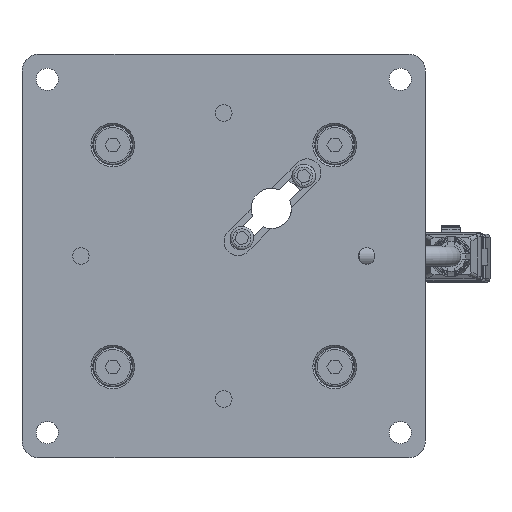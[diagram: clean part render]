
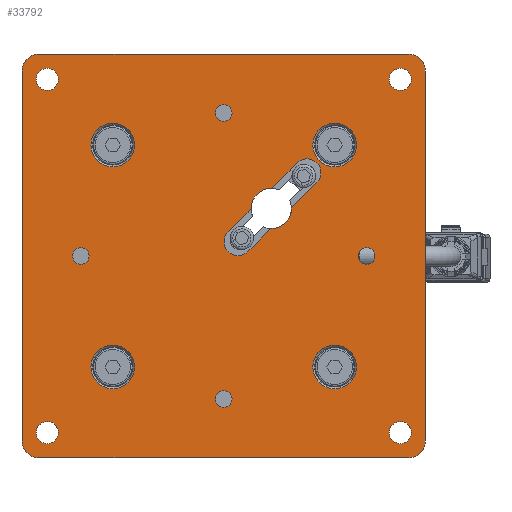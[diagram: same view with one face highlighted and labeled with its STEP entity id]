
A CAD part, top view. The second image highlights one B-rep face of the part: STEP entity #33792.
In plain terms, the highlighted planar face has unit normal (0, 0, 1).
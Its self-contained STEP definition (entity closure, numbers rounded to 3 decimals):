
#831=CIRCLE('',#35538,6.);
#857=CIRCLE('',#35568,2.459);
#858=CIRCLE('',#35569,2.459);
#859=CIRCLE('',#35570,2.459);
#860=CIRCLE('',#35571,2.459);
#861=CIRCLE('',#35572,6.5);
#862=CIRCLE('',#35573,6.5);
#863=CIRCLE('',#35574,6.5);
#864=CIRCLE('',#35575,6.5);
#865=CIRCLE('',#35576,3.3);
#866=CIRCLE('',#35577,3.3);
#867=CIRCLE('',#35578,3.3);
#868=CIRCLE('',#35579,3.3);
#869=CIRCLE('',#35580,5.);
#870=CIRCLE('',#35581,5.);
#871=CIRCLE('',#35582,5.);
#872=CIRCLE('',#35583,5.);
#873=CIRCLE('',#35584,6.);
#874=CIRCLE('',#35585,4.15);
#875=CIRCLE('',#35586,4.15);
#3788=ORIENTED_EDGE('',*,*,#10488,.F.);
#3789=ORIENTED_EDGE('',*,*,#10489,.F.);
#3790=ORIENTED_EDGE('',*,*,#10490,.F.);
#3791=ORIENTED_EDGE('',*,*,#10491,.F.);
#3792=ORIENTED_EDGE('',*,*,#10492,.T.);
#3793=ORIENTED_EDGE('',*,*,#10493,.T.);
#3794=ORIENTED_EDGE('',*,*,#10494,.T.);
#3795=ORIENTED_EDGE('',*,*,#10495,.T.);
#3796=ORIENTED_EDGE('',*,*,#10496,.F.);
#3797=ORIENTED_EDGE('',*,*,#10497,.F.);
#3798=ORIENTED_EDGE('',*,*,#10498,.F.);
#3799=ORIENTED_EDGE('',*,*,#10499,.F.);
#3800=ORIENTED_EDGE('',*,*,#10500,.T.);
#3801=ORIENTED_EDGE('',*,*,#10501,.T.);
#3802=ORIENTED_EDGE('',*,*,#10502,.T.);
#3803=ORIENTED_EDGE('',*,*,#10503,.T.);
#3804=ORIENTED_EDGE('',*,*,#10504,.T.);
#3805=ORIENTED_EDGE('',*,*,#10505,.T.);
#3806=ORIENTED_EDGE('',*,*,#10506,.T.);
#3807=ORIENTED_EDGE('',*,*,#10507,.T.);
#3808=ORIENTED_EDGE('',*,*,#10508,.F.);
#3809=ORIENTED_EDGE('',*,*,#10509,.F.);
#3810=ORIENTED_EDGE('',*,*,#10510,.F.);
#3811=ORIENTED_EDGE('',*,*,#10511,.T.);
#3812=ORIENTED_EDGE('',*,*,#10512,.T.);
#3813=ORIENTED_EDGE('',*,*,#10445,.F.);
#3814=ORIENTED_EDGE('',*,*,#10513,.T.);
#3815=ORIENTED_EDGE('',*,*,#10514,.T.);
#10445=EDGE_CURVE('',#13945,#13946,#831,.T.);
#10488=EDGE_CURVE('',#13985,#13985,#857,.T.);
#10489=EDGE_CURVE('',#13986,#13986,#858,.T.);
#10490=EDGE_CURVE('',#13987,#13987,#859,.T.);
#10491=EDGE_CURVE('',#13988,#13988,#860,.T.);
#10492=EDGE_CURVE('',#13989,#13989,#861,.T.);
#10493=EDGE_CURVE('',#13990,#13990,#862,.T.);
#10494=EDGE_CURVE('',#13991,#13991,#863,.T.);
#10495=EDGE_CURVE('',#13992,#13992,#864,.T.);
#10496=EDGE_CURVE('',#13993,#13993,#865,.T.);
#10497=EDGE_CURVE('',#13994,#13994,#866,.T.);
#10498=EDGE_CURVE('',#13995,#13995,#867,.T.);
#10499=EDGE_CURVE('',#13996,#13996,#868,.T.);
#10500=EDGE_CURVE('',#13997,#13998,#869,.T.);
#10501=EDGE_CURVE('',#13998,#13999,#16528,.T.);
#10502=EDGE_CURVE('',#13999,#14000,#870,.T.);
#10503=EDGE_CURVE('',#14000,#14001,#16529,.T.);
#10504=EDGE_CURVE('',#14001,#14002,#871,.T.);
#10505=EDGE_CURVE('',#14002,#14003,#16530,.T.);
#10506=EDGE_CURVE('',#14003,#14004,#872,.T.);
#10507=EDGE_CURVE('',#14004,#13997,#16531,.T.);
#10508=EDGE_CURVE('',#14005,#14006,#16532,.T.);
#10509=EDGE_CURVE('',#14007,#14005,#873,.T.);
#10510=EDGE_CURVE('',#14008,#14007,#16533,.T.);
#10511=EDGE_CURVE('',#14008,#14009,#874,.T.);
#10512=EDGE_CURVE('',#14009,#13946,#16534,.T.);
#10513=EDGE_CURVE('',#13945,#14010,#16535,.T.);
#10514=EDGE_CURVE('',#14010,#14006,#875,.T.);
#13945=VERTEX_POINT('',#46737);
#13946=VERTEX_POINT('',#46739);
#13985=VERTEX_POINT('',#46825);
#13986=VERTEX_POINT('',#46827);
#13987=VERTEX_POINT('',#46829);
#13988=VERTEX_POINT('',#46831);
#13989=VERTEX_POINT('',#46833);
#13990=VERTEX_POINT('',#46835);
#13991=VERTEX_POINT('',#46837);
#13992=VERTEX_POINT('',#46839);
#13993=VERTEX_POINT('',#46841);
#13994=VERTEX_POINT('',#46843);
#13995=VERTEX_POINT('',#46845);
#13996=VERTEX_POINT('',#46847);
#13997=VERTEX_POINT('',#46849);
#13998=VERTEX_POINT('',#46850);
#13999=VERTEX_POINT('',#46852);
#14000=VERTEX_POINT('',#46854);
#14001=VERTEX_POINT('',#46856);
#14002=VERTEX_POINT('',#46858);
#14003=VERTEX_POINT('',#46860);
#14004=VERTEX_POINT('',#46862);
#14005=VERTEX_POINT('',#46865);
#14006=VERTEX_POINT('',#46866);
#14007=VERTEX_POINT('',#46868);
#14008=VERTEX_POINT('',#46870);
#14009=VERTEX_POINT('',#46872);
#14010=VERTEX_POINT('',#46875);
#16528=LINE('',#46851,#18917);
#16529=LINE('',#46855,#18918);
#16530=LINE('',#46859,#18919);
#16531=LINE('',#46863,#18920);
#16532=LINE('',#46864,#18921);
#16533=LINE('',#46869,#18922);
#16534=LINE('',#46873,#18923);
#16535=LINE('',#46874,#18924);
#18917=VECTOR('',#39322,1000.);
#18918=VECTOR('',#39325,1000.);
#18919=VECTOR('',#39328,1000.);
#18920=VECTOR('',#39331,1000.);
#18921=VECTOR('',#39332,1000.);
#18922=VECTOR('',#39335,1000.);
#18923=VECTOR('',#39338,1000.);
#18924=VECTOR('',#39339,1000.);
#21073=EDGE_LOOP('',(#3788));
#21074=EDGE_LOOP('',(#3789));
#21075=EDGE_LOOP('',(#3790));
#21076=EDGE_LOOP('',(#3791));
#21077=EDGE_LOOP('',(#3792));
#21078=EDGE_LOOP('',(#3793));
#21079=EDGE_LOOP('',(#3794));
#21080=EDGE_LOOP('',(#3795));
#21081=EDGE_LOOP('',(#3796));
#21082=EDGE_LOOP('',(#3797));
#21083=EDGE_LOOP('',(#3798));
#21084=EDGE_LOOP('',(#3799));
#21085=EDGE_LOOP('',(#3800,#3801,#3802,#3803,#3804,#3805,#3806,#3807));
#21086=EDGE_LOOP('',(#3808,#3809,#3810,#3811,#3812,#3813,#3814,#3815));
#22826=FACE_BOUND('',#21073,.T.);
#22827=FACE_BOUND('',#21074,.T.);
#22828=FACE_BOUND('',#21075,.T.);
#22829=FACE_BOUND('',#21076,.T.);
#22830=FACE_BOUND('',#21077,.T.);
#22831=FACE_BOUND('',#21078,.T.);
#22832=FACE_BOUND('',#21079,.T.);
#22833=FACE_BOUND('',#21080,.T.);
#22834=FACE_BOUND('',#21081,.T.);
#22835=FACE_BOUND('',#21082,.T.);
#22836=FACE_BOUND('',#21083,.T.);
#22837=FACE_BOUND('',#21084,.T.);
#22838=FACE_BOUND('',#21085,.T.);
#22839=FACE_BOUND('',#21086,.T.);
#24381=PLANE('',#35567);
#33792=ADVANCED_FACE('',(#22826,#22827,#22828,#22829,#22830,#22831,#22832,
#22833,#22834,#22835,#22836,#22837,#22838,#22839),#24381,.T.);
#35538=AXIS2_PLACEMENT_3D('',#46738,#39219,#39220);
#35567=AXIS2_PLACEMENT_3D('',#46823,#39294,#39295);
#35568=AXIS2_PLACEMENT_3D('',#46824,#39296,#39297);
#35569=AXIS2_PLACEMENT_3D('',#46826,#39298,#39299);
#35570=AXIS2_PLACEMENT_3D('',#46828,#39300,#39301);
#35571=AXIS2_PLACEMENT_3D('',#46830,#39302,#39303);
#35572=AXIS2_PLACEMENT_3D('',#46832,#39304,#39305);
#35573=AXIS2_PLACEMENT_3D('',#46834,#39306,#39307);
#35574=AXIS2_PLACEMENT_3D('',#46836,#39308,#39309);
#35575=AXIS2_PLACEMENT_3D('',#46838,#39310,#39311);
#35576=AXIS2_PLACEMENT_3D('',#46840,#39312,#39313);
#35577=AXIS2_PLACEMENT_3D('',#46842,#39314,#39315);
#35578=AXIS2_PLACEMENT_3D('',#46844,#39316,#39317);
#35579=AXIS2_PLACEMENT_3D('',#46846,#39318,#39319);
#35580=AXIS2_PLACEMENT_3D('',#46848,#39320,#39321);
#35581=AXIS2_PLACEMENT_3D('',#46853,#39323,#39324);
#35582=AXIS2_PLACEMENT_3D('',#46857,#39326,#39327);
#35583=AXIS2_PLACEMENT_3D('',#46861,#39329,#39330);
#35584=AXIS2_PLACEMENT_3D('',#46867,#39333,#39334);
#35585=AXIS2_PLACEMENT_3D('',#46871,#39336,#39337);
#35586=AXIS2_PLACEMENT_3D('',#46876,#39340,#39341);
#39219=DIRECTION('',(0.,0.,1.));
#39220=DIRECTION('',(1.,0.,0.));
#39294=DIRECTION('',(0.,0.,1.));
#39295=DIRECTION('',(1.,0.,0.));
#39296=DIRECTION('',(0.,0.,1.));
#39297=DIRECTION('',(0.,1.,0.));
#39298=DIRECTION('',(0.,0.,1.));
#39299=DIRECTION('',(0.,1.,0.));
#39300=DIRECTION('',(0.,0.,1.));
#39301=DIRECTION('',(0.,1.,0.));
#39302=DIRECTION('',(0.,0.,1.));
#39303=DIRECTION('',(0.,1.,0.));
#39304=DIRECTION('',(0.,0.,-1.));
#39305=DIRECTION('',(1.,0.,0.));
#39306=DIRECTION('',(0.,0.,-1.));
#39307=DIRECTION('',(1.,0.,0.));
#39308=DIRECTION('',(0.,0.,-1.));
#39309=DIRECTION('',(1.,0.,0.));
#39310=DIRECTION('',(0.,0.,-1.));
#39311=DIRECTION('',(1.,0.,0.));
#39312=DIRECTION('',(0.,0.,1.));
#39313=DIRECTION('',(1.,0.,0.));
#39314=DIRECTION('',(0.,0.,1.));
#39315=DIRECTION('',(1.,0.,0.));
#39316=DIRECTION('',(0.,0.,1.));
#39317=DIRECTION('',(1.,0.,0.));
#39318=DIRECTION('',(0.,0.,1.));
#39319=DIRECTION('',(1.,0.,0.));
#39320=DIRECTION('',(0.,0.,1.));
#39321=DIRECTION('',(1.,0.,0.));
#39322=DIRECTION('',(1.,0.,0.));
#39323=DIRECTION('',(0.,0.,1.));
#39324=DIRECTION('',(-1.,0.,0.));
#39325=DIRECTION('',(0.,1.,0.));
#39326=DIRECTION('',(0.,0.,1.));
#39327=DIRECTION('',(1.,0.,0.));
#39328=DIRECTION('',(-1.,0.,0.));
#39329=DIRECTION('',(0.,0.,1.));
#39330=DIRECTION('',(1.,0.,0.));
#39331=DIRECTION('',(0.,-1.,0.));
#39332=DIRECTION('',(0.707,0.707,0.));
#39333=DIRECTION('',(0.,0.,1.));
#39334=DIRECTION('',(-1.,0.,0.));
#39335=DIRECTION('',(0.707,0.707,0.));
#39336=DIRECTION('',(0.,0.,-1.));
#39337=DIRECTION('',(0.707,-0.707,0.));
#39338=DIRECTION('',(0.707,0.707,0.));
#39339=DIRECTION('',(0.707,0.707,0.));
#39340=DIRECTION('',(0.,0.,-1.));
#39341=DIRECTION('',(-0.707,0.707,0.));
#46737=CARTESIAN_POINT('',(14.272,20.141,8.));
#46738=CARTESIAN_POINT('',(14.142,14.142,8.));
#46739=CARTESIAN_POINT('',(8.144,14.013,8.));
#46823=CARTESIAN_POINT('',(-55.,-55.,8.));
#46824=CARTESIAN_POINT('',(42.5,0.,8.));
#46825=CARTESIAN_POINT('',(42.5,2.459,8.));
#46826=CARTESIAN_POINT('',(0.,42.5,8.));
#46827=CARTESIAN_POINT('',(0.,44.959,8.));
#46828=CARTESIAN_POINT('',(-42.5,0.,8.));
#46829=CARTESIAN_POINT('',(-42.5,2.458,8.));
#46830=CARTESIAN_POINT('',(0.,-42.5,8.));
#46831=CARTESIAN_POINT('',(0.,-40.042,8.));
#46832=CARTESIAN_POINT('',(-33.,-33.,8.));
#46833=CARTESIAN_POINT('',(-26.5,-33.,8.));
#46834=CARTESIAN_POINT('',(33.,-33.,8.));
#46835=CARTESIAN_POINT('',(39.5,-33.,8.));
#46836=CARTESIAN_POINT('',(33.,33.,8.));
#46837=CARTESIAN_POINT('',(39.5,33.,8.));
#46838=CARTESIAN_POINT('',(-33.,33.,8.));
#46839=CARTESIAN_POINT('',(-26.5,33.,8.));
#46840=CARTESIAN_POINT('',(-52.5,-52.5,8.));
#46841=CARTESIAN_POINT('',(-49.2,-52.5,8.));
#46842=CARTESIAN_POINT('',(52.5,-52.5,8.));
#46843=CARTESIAN_POINT('',(55.8,-52.5,8.));
#46844=CARTESIAN_POINT('',(52.5,52.5,8.));
#46845=CARTESIAN_POINT('',(55.8,52.5,8.));
#46846=CARTESIAN_POINT('',(-52.5,52.5,8.));
#46847=CARTESIAN_POINT('',(-49.2,52.5,8.));
#46848=CARTESIAN_POINT('',(-55.,-55.,8.));
#46849=CARTESIAN_POINT('',(-60.,-55.,8.));
#46850=CARTESIAN_POINT('',(-55.,-60.,8.));
#46851=CARTESIAN_POINT('',(-55.,-60.,8.));
#46852=CARTESIAN_POINT('',(55.,-60.,8.));
#46853=CARTESIAN_POINT('',(55.,-55.,8.));
#46854=CARTESIAN_POINT('',(60.,-55.,8.));
#46855=CARTESIAN_POINT('',(60.,-55.,8.));
#46856=CARTESIAN_POINT('',(60.,55.,8.));
#46857=CARTESIAN_POINT('',(55.,55.,8.));
#46858=CARTESIAN_POINT('',(55.,60.,8.));
#46859=CARTESIAN_POINT('',(55.,60.,8.));
#46860=CARTESIAN_POINT('',(-55.,60.,8.));
#46861=CARTESIAN_POINT('',(-55.,55.,8.));
#46862=CARTESIAN_POINT('',(-60.,55.,8.));
#46863=CARTESIAN_POINT('',(-60.,55.,8.));
#46864=CARTESIAN_POINT('',(7.177,1.308,8.));
#46865=CARTESIAN_POINT('',(20.141,14.272,8.));
#46866=CARTESIAN_POINT('',(27.683,21.814,8.));
#46867=CARTESIAN_POINT('',(14.142,14.142,8.));
#46868=CARTESIAN_POINT('',(14.013,8.144,8.));
#46869=CARTESIAN_POINT('',(7.177,1.308,8.));
#46870=CARTESIAN_POINT('',(7.177,1.308,8.));
#46871=CARTESIAN_POINT('',(4.243,4.243,8.));
#46872=CARTESIAN_POINT('',(1.308,7.177,8.));
#46873=CARTESIAN_POINT('',(1.308,7.177,8.));
#46874=CARTESIAN_POINT('',(1.308,7.177,8.));
#46875=CARTESIAN_POINT('',(21.814,27.683,8.));
#46876=CARTESIAN_POINT('',(24.749,24.749,8.));
